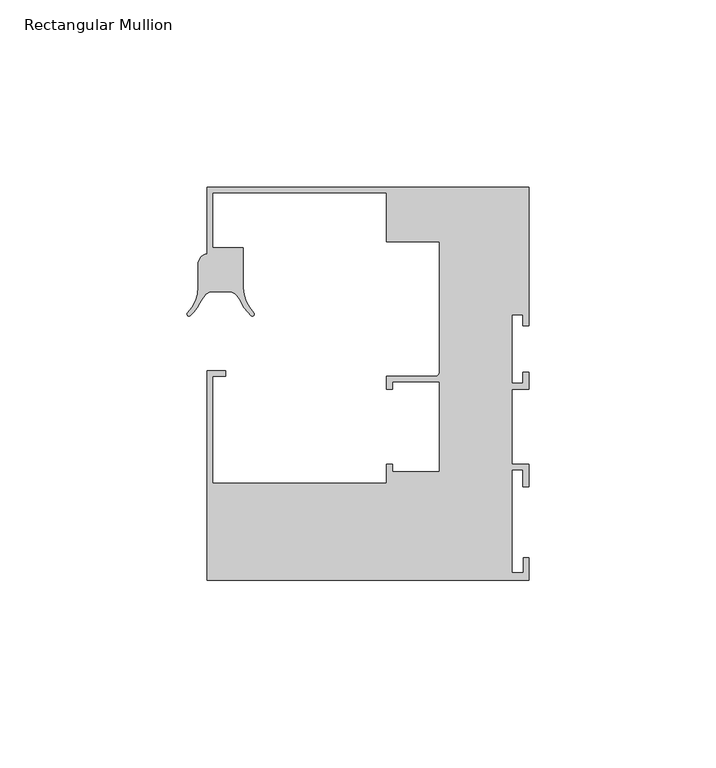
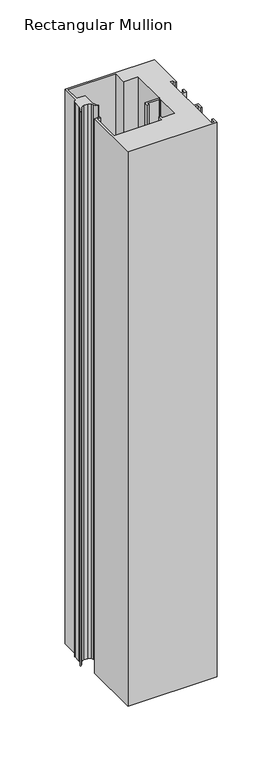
"""IFC4 building model written with IfcOpenShell, lengths in millimetres: member geometry, Rectangular Mullion : Danpal_Airpt_End-Mullion_B2."""

from ifc_helpers import new_model, si_unit, point, frame, frame_2d, origin, place, context, project, spatial, polyline, circle_curve, trimmed, segment, composite_curve, outline, extrude, source, transform, mapped, element, save


def rectangular_mullion_d28546ff(model_context):
    return source(origin(), model_context, "Body", "SweptSolid", [
        extrude(outline(composite_curve([segment(polyline([(-28.3319078, -44.249979), (18.1680922, -44.249979), (18.1680922, -39.2500001), (19.7680922, -39.2500001), (19.7680922, -41.2500001), (32.2500023, -41.2500001), (32.2500023, -17.2500031), (19.7500023, -17.2500031), (19.7500023, -19.2500031), (18.1500023, -19.2500031), (18.1500023, -15.7500031), (31.1983762, -15.7500031)]), True, "CONTINUOUS"), segment(trimmed(circle_curve(frame_2d((31.1983762, -14.698377)), 1.0516261), [point((31.1983762, -15.7500031))], [point((32.2500023, -14.698377))], True, "CARTESIAN"), True, "CONTINUOUS"), segment(polyline([(32.2500023, -14.698377), (32.2500023, 20.2499969), (18.1500023, 20.2499969), (18.1500023, 33.2499969), (-28.3500023, 33.2499969), (-28.3500023, 18.6499969), (-20.1500023, 18.6499969), (-20.1500023, 7.8643287)]), True, "CONTINUOUS"), segment(trimmed(circle_curve(frame_2d((-10.1541518, 8.1523787)), 10.0), [point((-20.1500023, 7.8643287))], [point((-17.3439806, 1.2021009))], True, "CARTESIAN"), True, "CONTINUOUS"), segment(trimmed(circle_curve(frame_2d((-17.7037094, 0.8543575)), 0.5003301), [point((-17.3439806, 1.2021009))], [point((-18.026354, 0.4719563))], False, "CARTESIAN"), True, "CONTINUOUS"), segment(trimmed(circle_curve(frame_2d((-11.5777192, 8.1149337)), 9.9999997), [point((-18.026354, 0.4719563))], [point((-20.5918518, 3.7853369))], False, "CARTESIAN"), True, "CONTINUOUS"), segment(trimmed(circle_curve(frame_2d((-29.6059846, -0.5442599)), 10.0), [point((-20.5918518, 3.7853369))], [point((-21.8217605, 5.7331484))], True, "CARTESIAN"), True, "CONTINUOUS"), segment(trimmed(circle_curve(frame_2d((-24.1570278, 3.8499259)), 3.0), [point((-21.8217605, 5.7331484))], [point((-24.1570278, 6.8499259))], True, "CARTESIAN"), True, "CONTINUOUS"), segment(polyline([(-24.1570278, 6.8499259), (-28.1956718, 6.8499259)]), True, "CONTINUOUS"), segment(trimmed(circle_curve(frame_2d((-28.1956718, 3.8499259)), 3.0), [point((-28.1956718, 6.8499259))], [point((-30.5309383, 5.7331494))], True, "CARTESIAN"), True, "CONTINUOUS"), segment(trimmed(circle_curve(frame_2d((-22.7467169, -0.544262)), 9.9999997), [point((-30.5309383, 5.7331494))], [point((-31.7608489, 3.785336))], True, "CARTESIAN"), True, "CONTINUOUS"), segment(trimmed(circle_curve(frame_2d((-40.774981, 8.114934)), 9.9999998), [point((-31.7608489, 3.785336))], [point((-34.3289194, 0.4697862))], False, "CARTESIAN"), True, "CONTINUOUS"), segment(trimmed(circle_curve(frame_2d((-34.6513305, 0.8521716)), 0.5001675), [point((-34.3289194, 0.4697862))], [point((-35.0108364, 1.1999114))], False, "CARTESIAN"), True, "CONTINUOUS"), segment(trimmed(circle_curve(frame_2d((-42.198548, 8.1523787)), 10.0), [point((-35.0108364, 1.1999114))], [point((-32.1986067, 8.1181379))], True, "CARTESIAN"), True, "CONTINUOUS"), segment(polyline([(-32.1986067, 8.1181379), (-32.1986067, 14.1183419)]), True, "CONTINUOUS"), segment(trimmed(circle_curve(frame_2d((-29.1986238, 14.1081309)), 3.0000002), [point((-32.1986067, 14.1183419))], [point((-29.8499992, 17.0365625))], False, "CARTESIAN"), True, "CONTINUOUS"), segment(polyline([(-29.8499992, 17.0365625), (-29.8499992, 34.75), (56.15, 34.75), (56.15, -2.25), (54.65, -2.25), (54.65, 0.75), (51.65, 0.75), (51.65, -17.65), (54.65, -17.65), (54.65, -14.65), (56.15, -14.65), (56.15, -19.25), (51.6680922, -19.25), (51.6680922, -39.2500001), (56.1499985, -39.2500001), (56.1499985, -45.2500001), (54.6499985, -45.2500001), (54.6499985, -40.7500001), (51.6680922, -40.7500001), (51.6680922, -68.2500001), (54.6680922, -68.2500001), (54.6680922, -64.2500001), (56.1680922, -64.2500001), (56.1680922, -70.2500001), (-29.8319078, -70.2500001), (-29.8319078, -14.2500001), (-24.8319078, -14.2500001), (-24.8319078, -15.7500001), (-28.3319078, -15.7500001), (-28.3319078, -44.249979)]), True, "CONTINUOUS")], self_intersect=False)), frame((0.0, 0.0, -565.3514979), z_axis=(0.0, 0.0, 1.0), x_axis=(1.0, 0.0, 0.0)), (0.0, 0.0, 1.0), 565.3514979),
    ])


if __name__ == "__main__":
    model = new_model("IFC4")
    model_context = context("Model", 3, world=origin())
    ifc_project = project(units=[si_unit("LENGTHUNIT", "METRE", prefix="MILLI")], contexts=[model_context])
    site = spatial("IfcSite", under=ifc_project)
    building = spatial("IfcBuilding", under=site)
    placement = place(None, origin())
    rectangular_mullion_shape = rectangular_mullion_d28546ff(model_context)
    element("IfcMember", 1, ObjectType="Rectangular Mullion : Danpal_Airpt_End-Mullion_B2", at=placement, inside=building, context=model_context, shape_type="MappedRepresentation", body=[
        mapped(rectangular_mullion_shape, transform((0.0, 0.0, 0.0), x_axis=(1.0, 0.0, 0.0), y_axis=(0.0, 1.0, 0.0), z_axis=(0.0, 0.0, 1.0))),
    ])
    save(model, "model.ifc")
